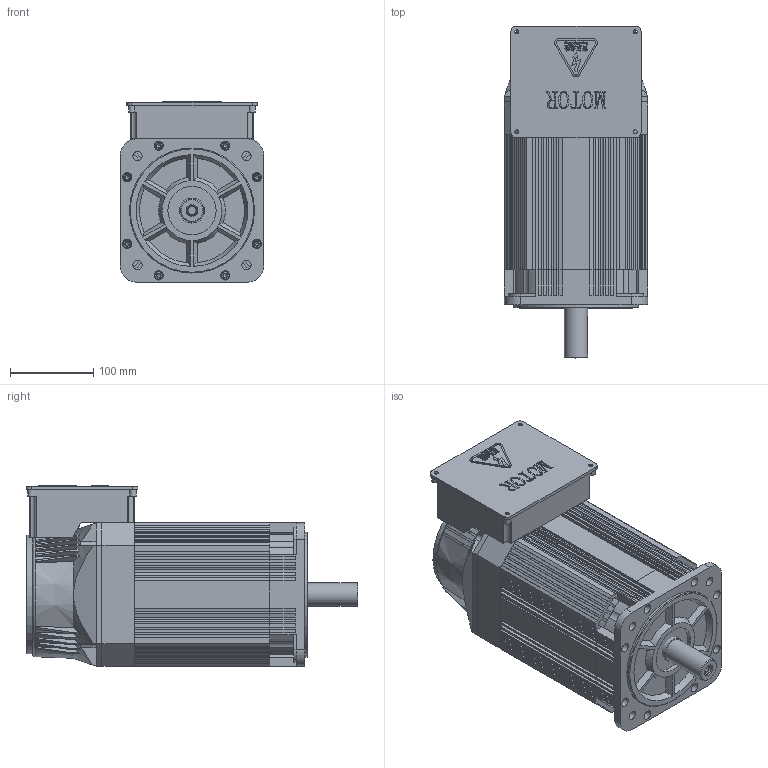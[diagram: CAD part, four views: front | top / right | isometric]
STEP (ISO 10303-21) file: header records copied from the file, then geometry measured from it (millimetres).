
FILE_DESCRIPTION(/* description */ (''),/* implementation_level */ '2;1');
FILE_NAME(/* name */ '172ZJY-4-4-15.stp',/* time_stamp */ '2024-01-15T11:17:50+08:00',/* author */ (''),/* organization */ (''),/* preprocessor_version */ 'ST-DEVELOPER v18.1',/* originating_system */ 'SIEMENS PLM Software NX 2000',/* authorisation */ '');
FILE_SCHEMA (('FEATURE_BASED_PROCESS_PLANNING','TECHNICAL_DATA_PACKAGING'));
Products named in the file (1): 172主轴伺服电机 加脚
Bounding box: 172 x 398 x 216.5 mm (x, y, z)
Volume: 7489645.7 mm3; surface area: 799280.8 mm2
Topology: 15 solids, 15 shells, 2287 faces, 6264 edges, 4123 vertices
Faces by surface type: plane 1338, extrusion 442, cylinder 382, cone 108, torus 17
Full cylindrical faces by diameter (mm): 4.5 x4, 5 x8, 5.3 x8, 5.795 x8, 6 x4, 7 x8, 8 x4, 10 x9, 11 x12, 12 x2, 26 x1, 28 x1, 30 x1, 58 x1, 137 x1, 150 x1
Entity records: 77153 total; most frequent: CARTESIAN_POINT 22032, ORIENTED_EDGE 12192, DIRECTION 9492, EDGE_CURVE 6096, VERTEX_POINT 4078, VECTOR 3764, LINE 3322, AXIS2_PLACEMENT_3D 2864
